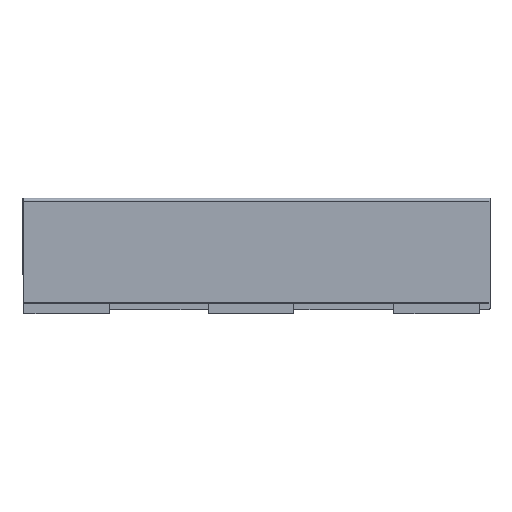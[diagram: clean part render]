
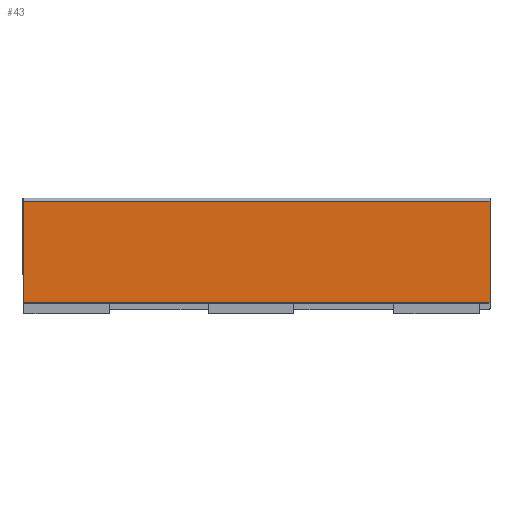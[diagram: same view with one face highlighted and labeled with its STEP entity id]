
A CAD part, left-side view. The second image highlights one B-rep face of the part: STEP entity #43.
In plain terms, the highlighted planar face has unit normal (-1, 0, 0).
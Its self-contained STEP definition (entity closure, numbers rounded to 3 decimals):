
#43 = ADVANCED_FACE ( 'NONE', ( #403 ), #4055, .F. ) ;
#403 = FACE_OUTER_BOUND ( 'NONE', #944, .T. ) ;
#724 = ORIENTED_EDGE ( 'NONE', *, *, #3355, .F. ) ;
#725 = ORIENTED_EDGE ( 'NONE', *, *, #3458, .F. ) ;
#726 = ORIENTED_EDGE ( 'NONE', *, *, #3581, .T. ) ;
#727 = ORIENTED_EDGE ( 'NONE', *, *, #3225, .T. ) ;
#944 = EDGE_LOOP ( 'NONE', ( #724, #725, #726, #727 ) ) ;
#1205 = VERTEX_POINT ( 'NONE', #3882 ) ;
#1456 = VECTOR ( 'NONE', #2454, 1000. ) ;
#1457 = LINE ( 'NONE', #2453, #1456 ) ;
#1647 = VECTOR ( 'NONE', #3783, 1000. ) ;
#1648 = LINE ( 'NONE', #3784, #1647 ) ;
#1738 = VECTOR ( 'NONE', #3946, 1000. ) ;
#1739 = LINE ( 'NONE', #3947, #1738 ) ;
#1866 = LINE ( 'NONE', #4309, #1930 ) ;
#1930 = VECTOR ( 'NONE', #4305, 1000. ) ;
#2164 = VERTEX_POINT ( 'NONE', #4830 ) ;
#2207 = VERTEX_POINT ( 'NONE', #4787 ) ;
#2210 = VERTEX_POINT ( 'NONE', #4784 ) ;
#2453 = CARTESIAN_POINT ( 'NONE',  ( -4.1, 490., 64.411 ) ) ;
#2454 = DIRECTION ( 'NONE',  ( 0., 0., -1. ) ) ;
#3123 = AXIS2_PLACEMENT_3D ( 'NONE', #4058, #4046, #4045 ) ;
#3225 = EDGE_CURVE ( 'NONE', #2164, #2207, #1866, .T. ) ;
#3355 = EDGE_CURVE ( 'NONE', #2210, #2207, #1739, .T. ) ;
#3458 = EDGE_CURVE ( 'NONE', #1205, #2210, #1648, .T. ) ;
#3581 = EDGE_CURVE ( 'NONE', #1205, #2164, #1457, .T. ) ;
#3783 = DIRECTION ( 'NONE',  ( 0., -1., 0. ) ) ;
#3784 = CARTESIAN_POINT ( 'NONE',  ( -4.1, 490., 78.498 ) ) ;
#3882 = CARTESIAN_POINT ( 'NONE',  ( -4.1, 490., 78.498 ) ) ;
#3946 = DIRECTION ( 'NONE',  ( 0., 0., -1. ) ) ;
#3947 = CARTESIAN_POINT ( 'NONE',  ( -4.1, 0., -28.503 ) ) ;
#4045 = DIRECTION ( 'NONE',  ( 0., 0., -1. ) ) ;
#4046 = DIRECTION ( 'NONE',  ( 1., 0., 0. ) ) ;
#4055 = PLANE ( 'NONE',  #3123 ) ;
#4058 = CARTESIAN_POINT ( 'NONE',  ( -4.1, 490., -28.503 ) ) ;
#4305 = DIRECTION ( 'NONE',  ( 0., -1., 0. ) ) ;
#4309 = CARTESIAN_POINT ( 'NONE',  ( -4.1, 490., -28.503 ) ) ;
#4784 = CARTESIAN_POINT ( 'NONE',  ( -4.1, 0., 78.498 ) ) ;
#4787 = CARTESIAN_POINT ( 'NONE',  ( -4.1, 0., -28.503 ) ) ;
#4830 = CARTESIAN_POINT ( 'NONE',  ( -4.1, 490., -28.503 ) ) ;
